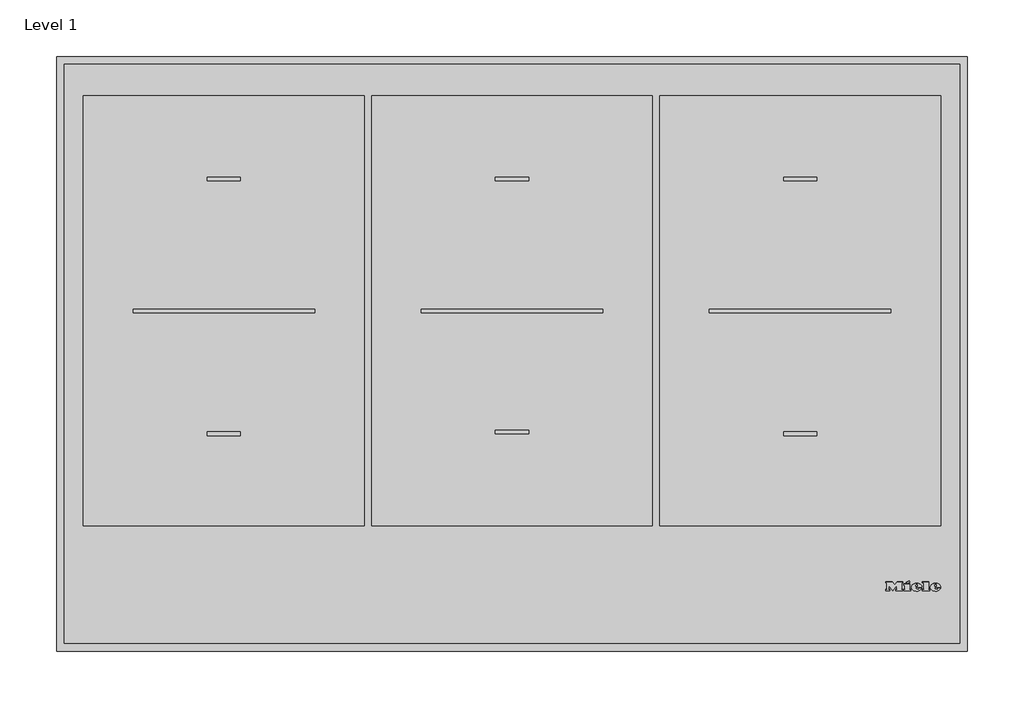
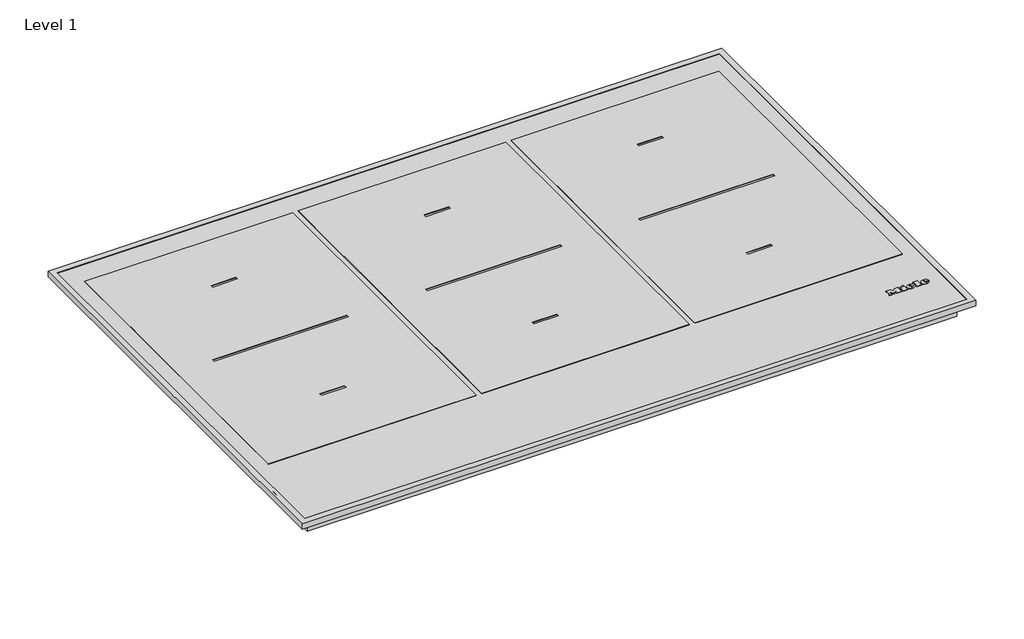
# One storey: 1 proxy.
"""IFC4 building model written with IfcOpenShell, lengths in millimetres."""

from ifc_helpers import new_model, si_unit, origin, place, context, project, spatial, transform, mapped, element, save
from components import specialty_equipment_3f7b766c

model = new_model("IFC4")

# Units and contexts
model_context = context("Model", 3, world=origin())
ifc_project = project(units=[si_unit("LENGTHUNIT", "METRE", prefix="MILLI")], contexts=[model_context])

# Site, building, storey
site = spatial("IfcSite", under=ifc_project)
building = spatial("IfcBuilding", under=site)
storey = spatial("IfcBuildingStorey", under=building, Name="Level 1", Elevation=0.0)

# Proxy
placement = place(None, origin())
specialty_equipment_shape = specialty_equipment_3f7b766c(model_context)
element("IfcBuildingElementProxy", 1, Name="11276510_BR_KM7575FR : 26757500_BR_11276510_KM7575FR", ObjectType="11276510_BR_KM7575FR : 26757500_BR_11276510_KM7575FR", at=placement, inside=storey, context=model_context, shape_type="MappedRepresentation", body=[
    mapped(specialty_equipment_shape, transform((0.0, 0.0, 0.0), x_axis=(1.0, 0.0, 0.0), y_axis=(0.0, 1.0, 0.0), z_axis=(0.0, 0.0, 1.0))),
])

save(model, "model.ifc")
